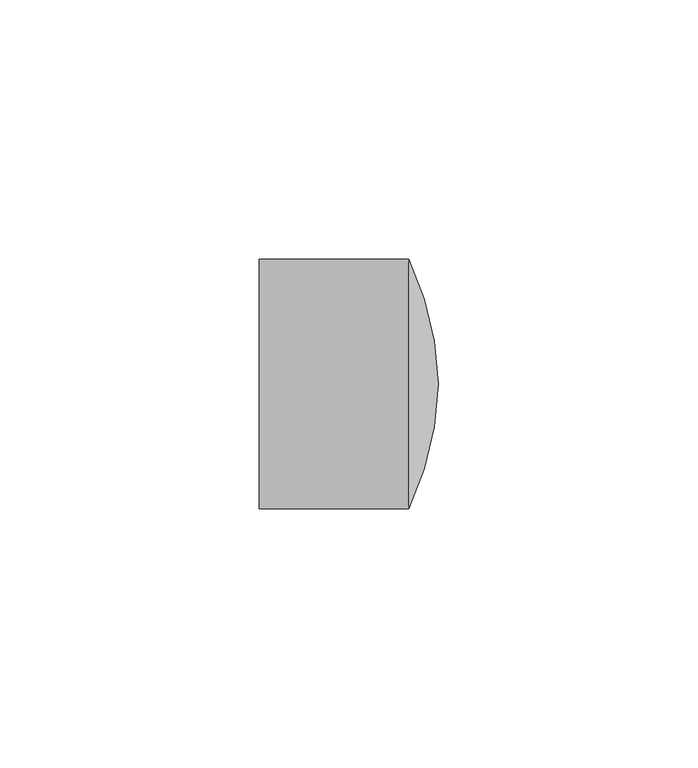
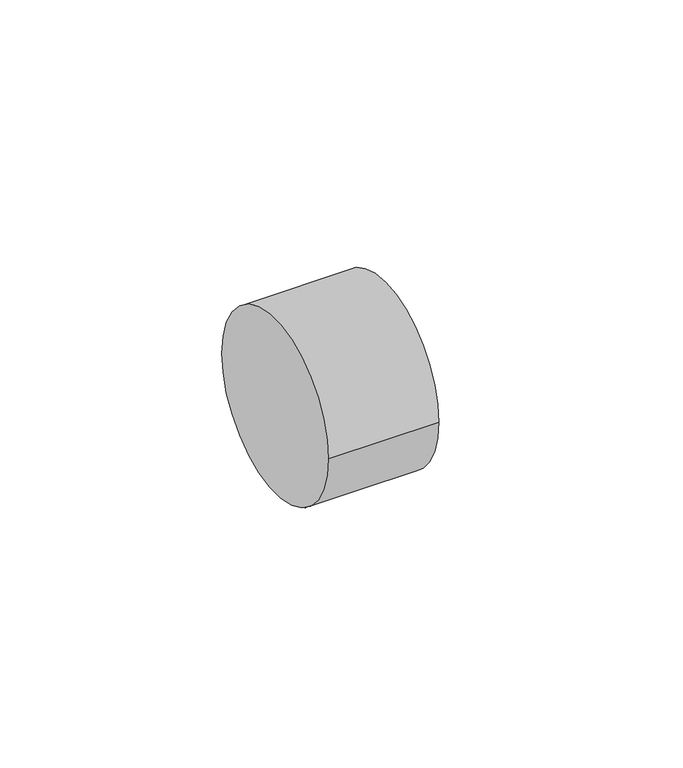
"""IFC4 building model written with IfcOpenShell, lengths in millimetres: pipe fitting geometry, 01051012 : Tapones H."""

from ifc_helpers import new_model, si_unit, point, frame, origin, place, context, project, spatial, circle_curve, ellipse_curve, trimmed, source, transform, mapped, element, save
from ifc_brep_helpers import plane_surface, cylinder_surface, revolved_surface, advanced_brep


def pipe_fitting_ae57cd9b(model_context):
    return source(origin(), model_context, "Body", "AdvancedBrep", [
        advanced_brep(
        [(28.75, 24.0, 0.0), (34.5, 0.0, 0.0), (28.75, -24.0, 0.0), (0.0, -24.0, 0.0), (0.0, 24.0, 0.0)],
        [
            (0, 1, circle_curve(frame((-24.0684537, -1.3432233, 0.0), z_axis=(0.0, 0.0, -1.0), x_axis=(1.0, 0.0, 0.0)), 58.5838546)),
            (1, 2, circle_curve(frame((-24.0684537, 1.3432233, 0.0), z_axis=(0.0, 0.0, -1.0), x_axis=(1.0, 0.0, 0.0)), 58.5838546)),
            (2, 0, circle_curve(frame((28.75, 0.0, 0.0), z_axis=(1.0, 0.0, 0.0), x_axis=(0.0, 1.0, 0.0)), 24.0)),
            (0, 2, circle_curve(frame((28.75, 0.0, 0.0), z_axis=(1.0, 0.0, 0.0), x_axis=(0.0, 1.0, 0.0)), 24.0)),
            (3, 4, circle_curve(frame((0.0, 0.0, 0.0), z_axis=(-1.0, 0.0, 0.0), x_axis=(0.0, 1.0, 0.0)), 24.0)),
            (4, 3, circle_curve(frame((0.0, 0.0, 0.0), z_axis=(-1.0, 0.0, 0.0), x_axis=(0.0, 1.0, 0.0)), 24.0)),
            (3, 2),
            (0, 4),
        ],
        [
            revolved_surface(trimmed(ellipse_curve(frame((-24.0684537, -1.3432233, 0.0), z_axis=(0.0, 0.0, 1.0), x_axis=(1.0, 0.0, 0.0)), 58.5838546, 58.5838546), [point((34.5, 0.0, 0.0))], [point((28.75, 24.0, 0.0))], True, "CARTESIAN"), (28.75, 0.0, 0.0), (-1.0, 0.0, 0.0)),
            plane_surface(frame((0.0, 0.0, 0.0), z_axis=(-1.0, 0.0, 0.0), x_axis=(0.0, 0.0, 1.0))),
            cylinder_surface(frame((0.0, 0.0, 0.0), z_axis=(-1.0, 0.0, 0.0), x_axis=(0.0, 1.0, 0.0)), 24.0),
        ],
        [
            (0, [[1, 2, 3]]),
            (0, [[-1, 4, -2]]),
            (1, [[5, 6]]),
            (2, [[-5, 7, -4, 8]]),
            (2, [[-6, -8, -3, -7]]),
        ],
    ),
    ])


if __name__ == "__main__":
    model = new_model("IFC4")
    model_context = context("Model", 3, world=origin())
    ifc_project = project(units=[si_unit("LENGTHUNIT", "METRE", prefix="MILLI")], contexts=[model_context])
    site = spatial("IfcSite", under=ifc_project)
    building = spatial("IfcBuilding", under=site)
    placement = place(None, origin())
    pipe_fitting_shape = pipe_fitting_ae57cd9b(model_context)
    element("IfcPipeFitting", 1, ObjectType="01051012 : Tapones H", at=placement, inside=building, context=model_context, shape_type="MappedRepresentation", body=[
        mapped(pipe_fitting_shape, transform((0.0, 0.0, 0.0), x_axis=(1.0, 0.0, 0.0), y_axis=(0.0, 1.0, 0.0), z_axis=(0.0, 0.0, 1.0))),
    ])
    save(model, "model.ifc")
